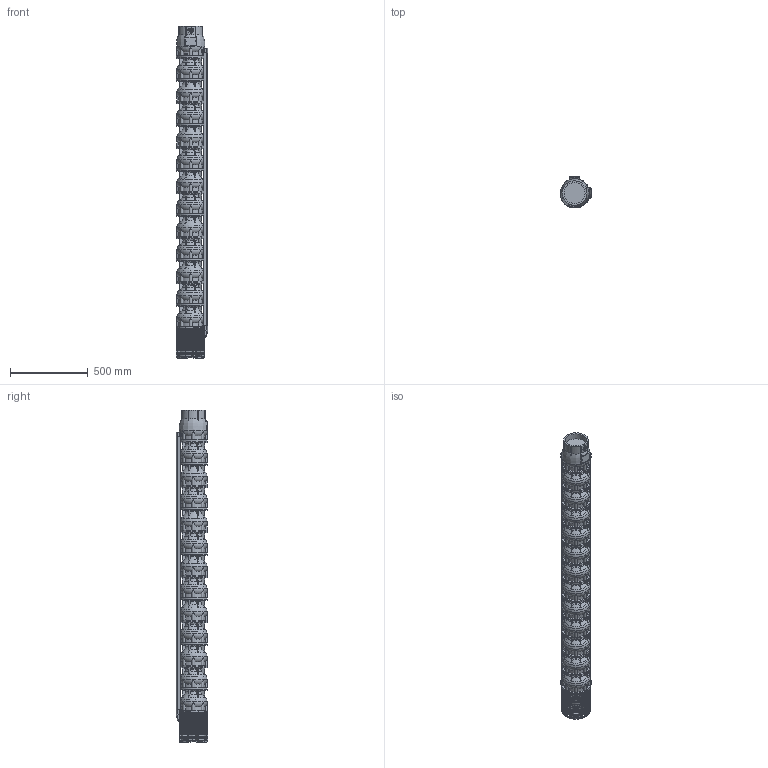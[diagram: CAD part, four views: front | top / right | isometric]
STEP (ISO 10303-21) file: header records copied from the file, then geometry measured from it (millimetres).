
FILE_DESCRIPTION(/* description */ ('Unknown'),/* implementation_level */ '2;1');
FILE_NAME(/* name */ 'VSI134-12_WR_M8-50_SLE',/* time_stamp */ '2023-09-14T15:00:24+02:00',/* author */ ('Unknown'),/* organization */ ('Unknown'),/* preprocessor_version */ 'ST-DEVELOPER v18.102',/* originating_system */ 'Solid Edge',/* authorisation */ 'Unknown');
FILE_SCHEMA (('CONFIG_CONTROL_DESIGN','TECHNICAL_DATA_PACKAGING','AUTOMOTIVE_DESIGN {1 0 10303 214 3 1 1}'));
Products named in the file (11): VSI134-12_WR_M8-50_SLE; VSI134_testata; VSI134_diffusore; VSI134_supporto_8×8; VSI134_filtro_A; VSI134_filtro_B; VSI134_terminale_top_copricavo_basso; VSI134_terminale_bottom_copricavo_basso; LOW 134-12; M5X8_UNI7687; VSI134_giunto_8×8
Assembly tree (35 placements, depth 2):
  VSI134-12_WR_M8-50_SLE
    VSI134_testata
    VSI134_diffusore  x12
    VSI134_supporto_8×8
    VSI134_filtro_A
    VSI134_filtro_B
    VSI134_terminale_top_copricavo_basso  x2
    VSI134_terminale_bottom_copricavo_basso  x2
    LOW 134-12  x2
    M5X8_UNI7687  x12
    VSI134_giunto_8×8
Bounding box: 201.57 x 202.09 x 2137 mm (x, y, z)
Volume: 39131181.2 mm3; surface area: 3267376.7 mm2
Topology: 74 solids, 76 shells, 4617 faces, 13025 edges, 8692 vertices
Faces by surface type: plane 3318, cylinder 615, torus 572, cone 67, bspline 31, sphere 14
Full cylindrical faces by diameter (mm): 2.4 x2, 3 x2, 4.2 x16, 5 x12, 5.5 x8, 26 x1, 44 x1, 69 x1, 74 x1, 98 x1, 135.472 x1, 157 x1, 182 x13
Entity records: 85593 total; most frequent: CARTESIAN_POINT 18368, ORIENTED_EDGE 14056, DIRECTION 13500, EDGE_CURVE 7028, VERTEX_POINT 4730, AXIS2_PLACEMENT_3D 4601, LINE 4298, VECTOR 4298
